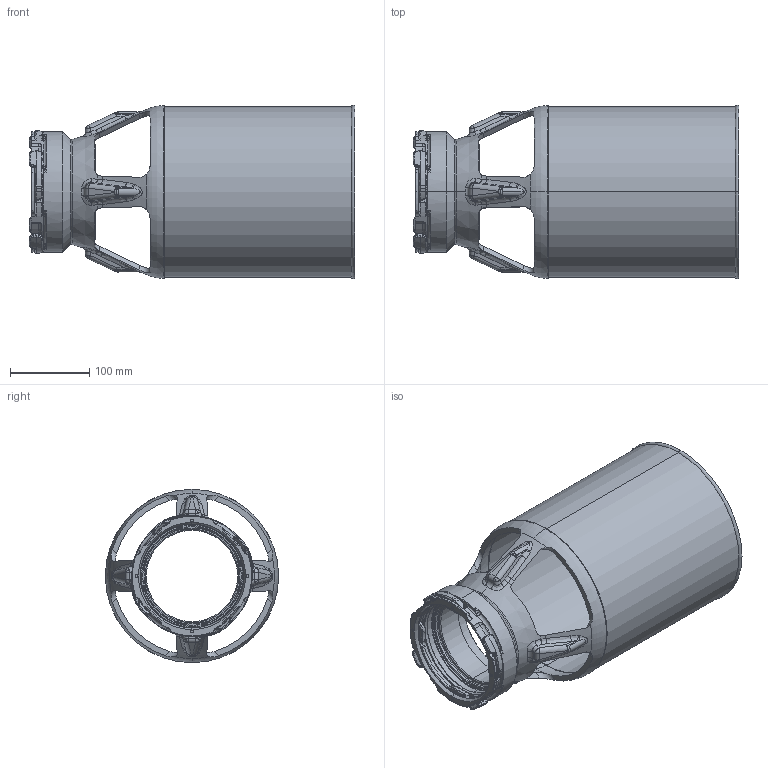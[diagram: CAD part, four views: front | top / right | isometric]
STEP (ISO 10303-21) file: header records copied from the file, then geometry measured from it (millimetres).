
FILE_DESCRIPTION (( 'STEP AP203' ), '1' );
FILE_NAME ('FJ-MX-MD.STEP', '2014-12-11T18:22:49', ( '' ), ( '' ), 'SwSTEP 2.0', 'SolidWorks 2014', '' );
FILE_SCHEMA (( 'CONFIG_CONTROL_DESIGN' ));
Length unit declared in the file: inch
Products named in the file (1): FJ-MX-MD
Bounding box: 411 x 218.94 x 218.94 mm (x, y, z)
Surface area: 479633.2 mm2 (no closed solid volume)
Topology: 0 solids, 12 shells, 824 faces, 2375 edges, 1507 vertices
Faces by surface type: torus 198, cylinder 177, bspline 164, cone 151, plane 108, sphere 26
Entity records: 36585 total; most frequent: CARTESIAN_POINT 16318, ORIENTED_EDGE 4227, DIRECTION 4214, EDGE_CURVE 2363, AXIS2_PLACEMENT_3D 1893, VERTEX_POINT 1505, CIRCLE 1232, EDGE_LOOP 862
